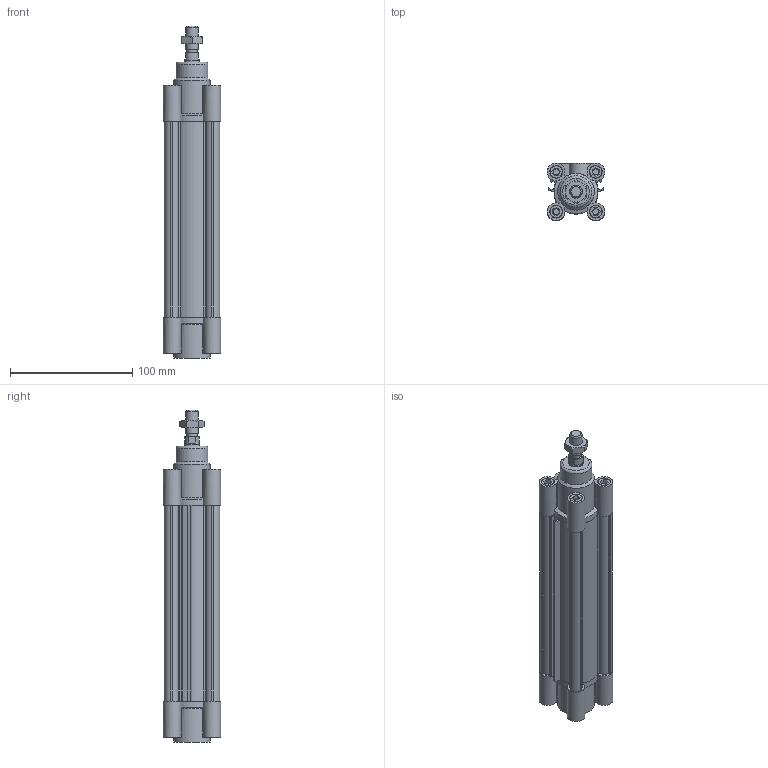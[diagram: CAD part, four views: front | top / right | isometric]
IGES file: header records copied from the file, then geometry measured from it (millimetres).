
Global section: file name: No Iges File Name specified; native system: Autodesk Inventor 2012; preprocessor: AutoDesk Inventor Iges Exporter R2012; author: pilonfr1; date: 20120128.095017; units: millimetre
Bounding box: 47 x 47 x 271.5 mm (x, y, z)
Volume: 236042.5 mm3; surface area: 118694.5 mm2
Topology: 5 solids, 5 shells, 316 faces, 788 edges, 522 vertices
Faces by surface type: plane 200, cylinder 54, revolution 39, cone 22, torus 1
Full cylindrical faces by diameter (mm): 8.8 x1, 10 x9, 11.5 x1, 12 x1, 26 x1, 30 x2, 32 x3
